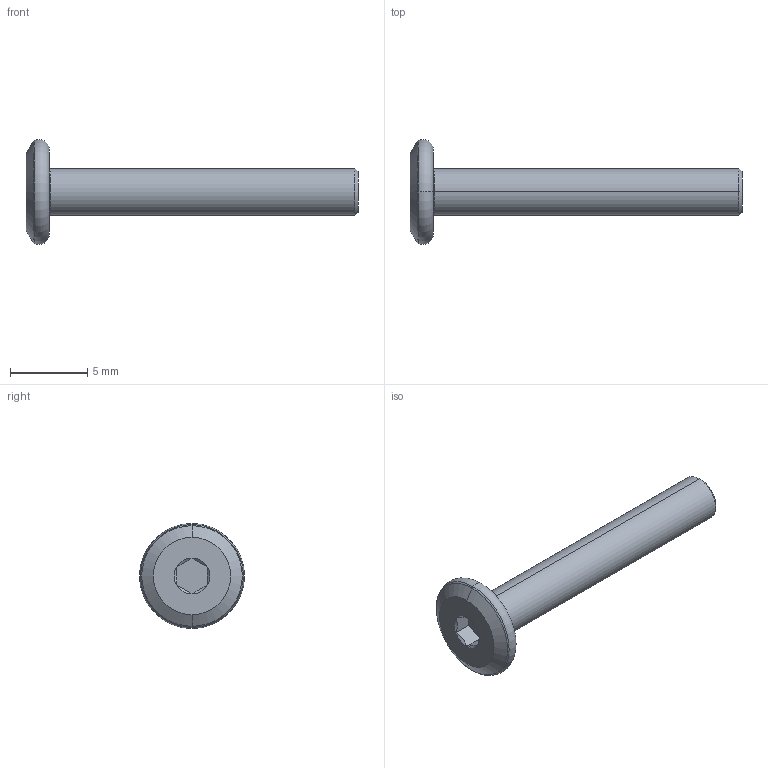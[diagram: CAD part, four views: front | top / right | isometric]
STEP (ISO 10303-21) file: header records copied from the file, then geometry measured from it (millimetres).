
FILE_DESCRIPTION (( 'STEP AP203' ), '1' );
FILE_NAME ('LGD-304D-M3x20.STEP', '2026-08-13T04:11:55', ( '' ), ( '' ), 'SwSTEP 2.0', 'SolidWorks 2020', '' );
FILE_SCHEMA (( 'CONFIG_CONTROL_DESIGN' ));
Length unit declared in the file: millimetre
Products named in the file (1): LGD-304D-M3x20
Bounding box: 21.5 x 6.8 x 6.8 mm (x, y, z)
Volume: 184.5 mm3; surface area: 283.5 mm2
Topology: 1 solids, 1 shells, 28 faces, 52 edges, 28 vertices
Faces by surface type: cone 10, plane 10, torus 6, cylinder 2
Entity records: 779 total; most frequent: CARTESIAN_POINT 139, DIRECTION 132, ORIENTED_EDGE 104, AXIS2_PLACEMENT_3D 57, EDGE_CURVE 52, EDGE_LOOP 30, VERTEX_POINT 28, ADVANCED_FACE 28
